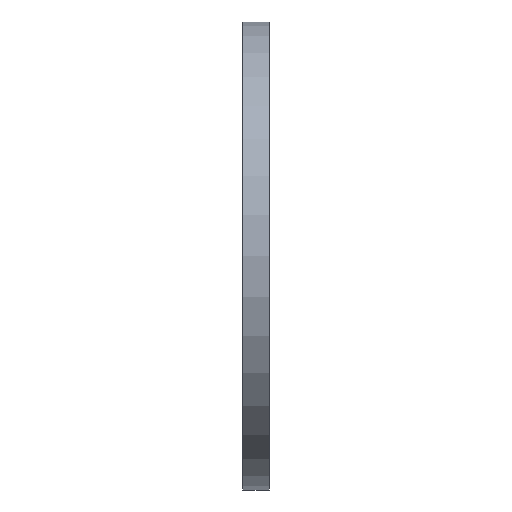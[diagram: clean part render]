
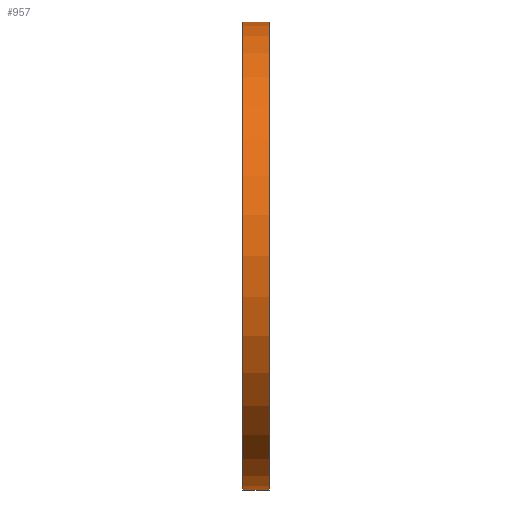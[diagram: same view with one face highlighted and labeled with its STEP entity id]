
A CAD part, left-side view. The second image highlights one B-rep face of the part: STEP entity #957.
In plain terms, the highlighted cylindrical face has radius 282.5 mm (diameter 565 mm), a partial arc.
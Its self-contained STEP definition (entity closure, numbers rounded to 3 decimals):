
#7 = DIRECTION ( 'NONE',  ( 0., 0., 1. ) ) ;
#24 = AXIS2_PLACEMENT_3D ( 'NONE', #1000, #1320, #1208 ) ;
#49 = EDGE_CURVE ( 'NONE', #59, #181, #185, .T. ) ;
#59 = VERTEX_POINT ( 'NONE', #770 ) ;
#108 = EDGE_CURVE ( 'NONE', #59, #801, #637, .T. ) ;
#151 = CARTESIAN_POINT ( 'NONE',  ( 0., 0., 282.5 ) ) ;
#181 = VERTEX_POINT ( 'NONE', #598 ) ;
#185 = LINE ( 'NONE', #1417, #232 ) ;
#191 = EDGE_CURVE ( 'NONE', #181, #239, #1174, .T. ) ;
#232 = VECTOR ( 'NONE', #404, 1000. ) ;
#239 = VERTEX_POINT ( 'NONE', #616 ) ;
#242 = DIRECTION ( 'NONE',  ( 0., 1., 0. ) ) ;
#250 = EDGE_LOOP ( 'NONE', ( #745, #299, #359, #1411 ) ) ;
#255 = CARTESIAN_POINT ( 'NONE',  ( 0., 32., 0. ) ) ;
#270 = AXIS2_PLACEMENT_3D ( 'NONE', #1445, #1458, #555 ) ;
#274 = EDGE_CURVE ( 'NONE', #801, #239, #481, .T. ) ;
#299 = ORIENTED_EDGE ( 'NONE', *, *, #108, .T. ) ;
#359 = ORIENTED_EDGE ( 'NONE', *, *, #274, .T. ) ;
#404 = DIRECTION ( 'NONE',  ( 0., 1., 0. ) ) ;
#462 = AXIS2_PLACEMENT_3D ( 'NONE', #255, #1177, #7 ) ;
#481 = LINE ( 'NONE', #1061, #849 ) ;
#536 = CYLINDRICAL_SURFACE ( 'NONE', #24, 282.5 ) ;
#552 = FACE_OUTER_BOUND ( 'NONE', #250, .T. ) ;
#555 = DIRECTION ( 'NONE',  ( 0., 0., 1. ) ) ;
#598 = CARTESIAN_POINT ( 'NONE',  ( 0., 32., -282.5 ) ) ;
#616 = CARTESIAN_POINT ( 'NONE',  ( 0., 32., 282.5 ) ) ;
#637 = CIRCLE ( 'NONE', #270, 282.5 ) ;
#745 = ORIENTED_EDGE ( 'NONE', *, *, #49, .F. ) ;
#770 = CARTESIAN_POINT ( 'NONE',  ( 0., 0., -282.5 ) ) ;
#801 = VERTEX_POINT ( 'NONE', #151 ) ;
#849 = VECTOR ( 'NONE', #242, 1000. ) ;
#957 = ADVANCED_FACE ( 'NONE', ( #552 ), #536, .T. ) ;
#1000 = CARTESIAN_POINT ( 'NONE',  ( 0., 34.695, 0. ) ) ;
#1061 = CARTESIAN_POINT ( 'NONE',  ( 0., 34.695, 282.5 ) ) ;
#1174 = CIRCLE ( 'NONE', #462, 282.5 ) ;
#1177 = DIRECTION ( 'NONE',  ( 0., 1., 0. ) ) ;
#1208 = DIRECTION ( 'NONE',  ( 0., 0., 1. ) ) ;
#1320 = DIRECTION ( 'NONE',  ( 0., 1., 0. ) ) ;
#1411 = ORIENTED_EDGE ( 'NONE', *, *, #191, .F. ) ;
#1417 = CARTESIAN_POINT ( 'NONE',  ( 0., 34.695, -282.5 ) ) ;
#1445 = CARTESIAN_POINT ( 'NONE',  ( 0., 0., 0. ) ) ;
#1458 = DIRECTION ( 'NONE',  ( 0., 1., 0. ) ) ;
